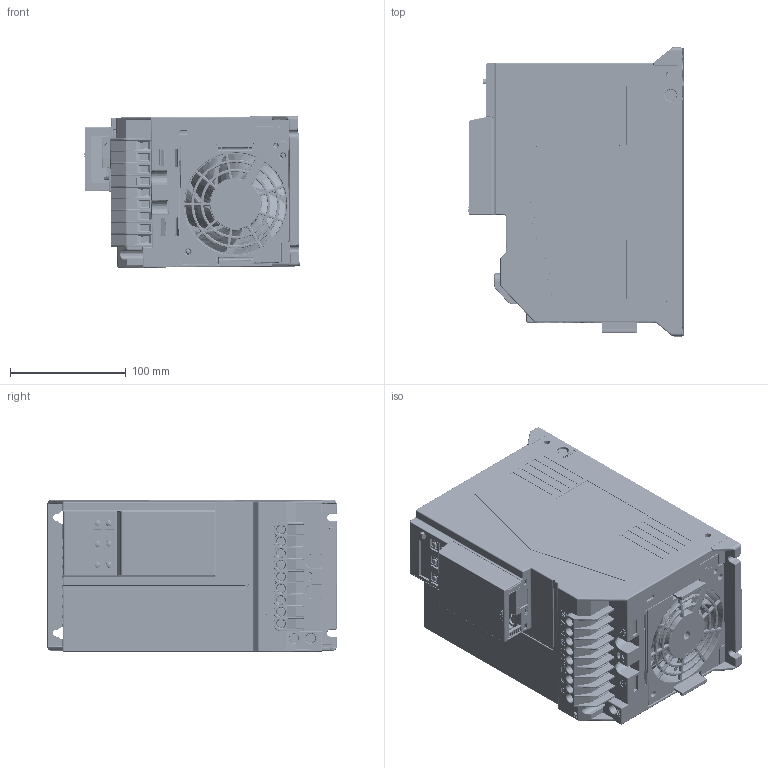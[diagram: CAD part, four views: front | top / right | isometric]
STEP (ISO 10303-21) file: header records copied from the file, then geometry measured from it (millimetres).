
FILE_DESCRIPTION((''),'2;1');
FILE_NAME('00-GD27-015G-4_ASM_3_ASM_1_ASM__ASM','2024-11-06T19:59:12',('Administrator'),(''),'CREO PARAMETRIC BY PTC INC, 2019080','CREO PARAMETRIC BY PTC INC, 2019080','');
FILE_SCHEMA(('CONFIG_CONTROL_DESIGN'));
Products named in the file (39): 80310944_1_1_1; TPR-3-8-SL_1_1_1; 80310944_ASM_1_ASM_1_ASM_1_ASM; 80740464_2_1_1_1; 80740464_2_ASM_1_ASM_1_ASM; GB809-M5X6A_1_1_1; GB809-M4X6A_1_1_1; 80740464_ASM_2_ASM_1_ASM_1_ASM; 80740465_2_1_1; 80740465SY_1_1_1; 80740465SY_ASM_2_ASM_1_ASM_1_ASM; 80810223_1_1_1; 80810223SY_1_1_1; 80810223SY_ASM_1_ASM_1_ASM_1_ASM; _1000_1_1_1; NONE_1_1_1; _60001_1_1_1; HXHT-00_ASM_1_ASM_1_ASM_1_ASM; 00_1-331074_1_1; 00_1-331791_1_1; 24-09-03000_ASM_1_ASM_1_ASM_1_ASM; 9238FS_ASM_1_ASM_1_ASM_1_ASM; 17003-04827_20230506_3_1_1; E-USB05-TFBA_1_1_1; E-MJ8-0204-100-R_1_1_1; E-POT3-98_1_1_1; E-SP-SMD45_1_1_1; 17003-04827_20230506_ASM_3_ASM__ASM; 17003-06156-SCF_A2-0905A_3_1_1; 17003-06156-SCF_A2-0905B_ASM_3__ASM; 17003-06157-0910_3_1_1; 17003-06157-A2-0910_ASM_3_ASM_1_ASM; 17003-06160-0910_3_1_1; E-DIN0109-10_16MM-TB_1_1_1; 17003-06160-A2-0910_ASM_3_ASM_1_ASM; 89280031_1_1_1; 89300003_1_1_1; GD27-015G-4-ES_ASM_3_ASM_1_ASM__ASM; 00-GD27-015G-4_ASM_3_ASM_1_ASM__ASM
Assembly tree (46 placements, depth 5):
  00-GD27-015G-4_ASM_3_ASM_1_ASM__ASM
    80310944_ASM_1_ASM_1_ASM_1_ASM
      80310944_1_1_1
      TPR-3-8-SL_1_1_1  x2
    80740464_ASM_2_ASM_1_ASM_1_ASM
      80740464_2_ASM_1_ASM_1_ASM
        80740464_2_1_1_1
      GB809-M5X6A_1_1_1  x4
      GB809-M4X6A_1_1_1  x5
    80740465SY_ASM_2_ASM_1_ASM_1_ASM
      80740465_2_1_1
      80740465SY_1_1_1
    80810223SY_ASM_1_ASM_1_ASM_1_ASM
      80810223_1_1_1
      80810223SY_1_1_1
    9238FS_ASM_1_ASM_1_ASM_1_ASM
      24-09-03000_ASM_1_ASM_1_ASM_1_ASM
        _1000_1_1_1
        HXHT-00_ASM_1_ASM_1_ASM_1_ASM
          NONE_1_1_1
          _60001_1_1_1
        00_1-331074_1_1
        00_1-331791_1_1
    GD27-015G-4-ES_ASM_3_ASM_1_ASM__ASM
      17003-04827_20230506_ASM_3_ASM__ASM
        17003-04827_20230506_3_1_1
        E-USB05-TFBA_1_1_1
        E-MJ8-0204-100-R_1_1_1
        E-POT3-98_1_1_1
        E-SP-SMD45_1_1_1
      17003-06156-SCF_A2-0905B_ASM_3__ASM
        17003-06156-SCF_A2-0905A_3_1_1
      17003-06157-A2-0910_ASM_3_ASM_1_ASM
        17003-06157-0910_3_1_1
      17003-06160-A2-0910_ASM_3_ASM_1_ASM
        17003-06160-0910_3_1_1
        E-DIN0109-10_16MM-TB_1_1_1
      89280031_1_1_1
      89300003_1_1_1
Bounding box: 185.96 x 250 x 131.2 mm (x, y, z)
Volume: 887920.3 mm3; surface area: 833770.9 mm2
Topology: 31 solids, 57 shells, 11869 faces, 32742 edges, 21133 vertices
Faces by surface type: plane 6626, cylinder 3092, torus 773, bspline 471, cone 454, extrusion 364, sphere 89
Entity records: 395251 total; most frequent: CARTESIAN_POINT 127531, ORIENTED_EDGE 57898, DIRECTION 52617, EDGE_CURVE 28953, VERTEX_POINT 18771, VECTOR 18707, LINE 18343, AXIS2_PLACEMENT_3D 16955
